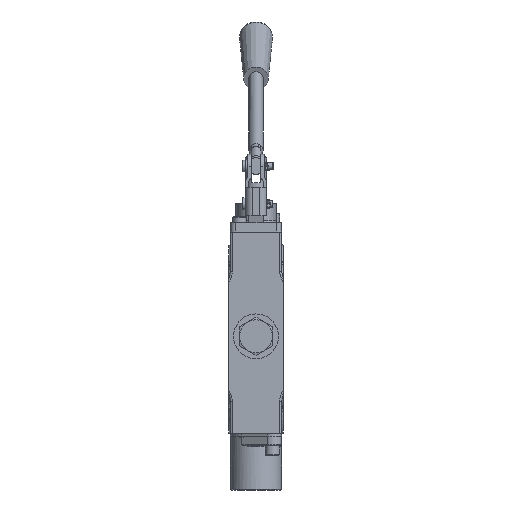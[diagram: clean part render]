
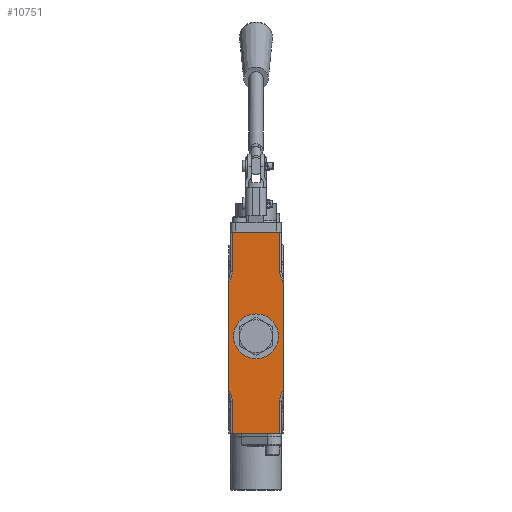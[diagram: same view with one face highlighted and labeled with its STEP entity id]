
A CAD part, front view. The second image highlights one B-rep face of the part: STEP entity #10751.
In plain terms, the highlighted planar face has unit normal (0, -1, 0).
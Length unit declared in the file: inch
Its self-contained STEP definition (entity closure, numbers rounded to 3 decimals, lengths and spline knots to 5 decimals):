
#422=PLANE($,#11676);
#675=LINE($,#16338,#1364);
#686=LINE($,#16417,#1375);
#762=LINE($,#17036,#1451);
#818=LINE($,#17465,#1507);
#820=LINE($,#17473,#1509);
#830=LINE($,#17569,#1519);
#849=LINE($,#17935,#1538);
#850=LINE($,#17942,#1539);
#1364=VECTOR($,#12827,1.251);
#1375=VECTOR($,#12874,1.251);
#1451=VECTOR($,#13200,2.86772);
#1507=VECTOR($,#13376,1.03886);
#1509=VECTOR($,#13386,0.85086);
#1519=VECTOR($,#13430,2.86772);
#1538=VECTOR($,#13561,0.85086);
#1539=VECTOR($,#13562,1.03886);
#2116=B_SPLINE_CURVE_WITH_KNOTS($,3,(#17924,#17925,#17926,#17927,#17928),
 .UNSPECIFIED.,.F.,.F.,(4,1,4),(0.,0.33727,0.78697),
 .UNSPECIFIED.);
#2117=B_SPLINE_CURVE_WITH_KNOTS($,3,(#17936,#17937,#17938,#17939,#17940),
 .UNSPECIFIED.,.F.,.F.,(4,1,4),(0.16713,0.61683,0.9541),
 .UNSPECIFIED.);
#2118=B_SPLINE_CURVE_WITH_KNOTS($,3,(#17943,#17944,#17945,#17946,#17947),
 .UNSPECIFIED.,.F.,.F.,(4,1,4),(0.16713,0.5044,0.9541),
 .UNSPECIFIED.);
#2119=B_SPLINE_CURVE_WITH_KNOTS($,3,(#17948,#17949,#17950,#17951,#17952),
 .UNSPECIFIED.,.F.,.F.,(4,1,4),(0.,0.33727,
0.78697),.UNSPECIFIED.);
#2302=FACE_BOUND($,#3556,.T.);
#2303=FACE_BOUND($,#3557,.T.);
#3556=EDGE_LOOP($,(#8275));
#3557=EDGE_LOOP($,(#8276,#8277,#8278,#8279,#8280,#8281,#8282,#8283,#8284,
#8285,#8286,#8287));
#4211=CIRCLE($,#11379,0.594);
#4836=VERTEX_POINT($,#16308);
#4846=VERTEX_POINT($,#16335);
#4847=VERTEX_POINT($,#16337);
#4866=VERTEX_POINT($,#16402);
#4873=VERTEX_POINT($,#16415);
#5007=VERTEX_POINT($,#17028);
#5008=VERTEX_POINT($,#17035);
#5131=VERTEX_POINT($,#17464);
#5133=VERTEX_POINT($,#17472);
#5155=VERTEX_POINT($,#17561);
#5156=VERTEX_POINT($,#17568);
#5202=VERTEX_POINT($,#17934);
#5203=VERTEX_POINT($,#17941);
#5917=EDGE_CURVE($,#4836,#4836,#4211,.T.);
#5927=EDGE_CURVE($,#4846,#4847,#675,.T.);
#5954=EDGE_CURVE($,#4873,#4866,#686,.T.);
#6129=EDGE_CURVE($,#5007,#5008,#762,.T.);
#6266=EDGE_CURVE($,#4866,#5131,#818,.T.);
#6270=EDGE_CURVE($,#4847,#5133,#820,.T.);
#6299=EDGE_CURVE($,#5155,#5156,#830,.T.);
#6371=EDGE_CURVE($,#5131,#5007,#2116,.T.);
#6374=EDGE_CURVE($,#5202,#4846,#849,.T.);
#6375=EDGE_CURVE($,#5008,#5202,#2117,.T.);
#6376=EDGE_CURVE($,#5203,#4873,#850,.T.);
#6377=EDGE_CURVE($,#5156,#5203,#2118,.T.);
#6378=EDGE_CURVE($,#5133,#5155,#2119,.T.);
#8275=ORIENTED_EDGE($,*,*,#5917,.T.);
#8276=ORIENTED_EDGE($,*,*,#5927,.F.);
#8277=ORIENTED_EDGE($,*,*,#6374,.F.);
#8278=ORIENTED_EDGE($,*,*,#6375,.F.);
#8279=ORIENTED_EDGE($,*,*,#6129,.F.);
#8280=ORIENTED_EDGE($,*,*,#6371,.F.);
#8281=ORIENTED_EDGE($,*,*,#6266,.F.);
#8282=ORIENTED_EDGE($,*,*,#5954,.F.);
#8283=ORIENTED_EDGE($,*,*,#6376,.F.);
#8284=ORIENTED_EDGE($,*,*,#6377,.F.);
#8285=ORIENTED_EDGE($,*,*,#6299,.F.);
#8286=ORIENTED_EDGE($,*,*,#6378,.F.);
#8287=ORIENTED_EDGE($,*,*,#6270,.F.);
#10751=ADVANCED_FACE($,(#2302,#2303),#422,.T.);
#11379=AXIS2_PLACEMENT_3D($,#16309,#12791,#12792);
#11676=AXIS2_PLACEMENT_3D($,#17933,#13559,#13560);
#12791=DIRECTION('center_axis',(0.,1.,0.));
#12792=DIRECTION('ref_axis',(1.,0.,0.));
#12827=DIRECTION($,(-1.,0.,0.));
#12874=DIRECTION($,(1.,0.,0.));
#13200=DIRECTION($,(0.,0.,-1.));
#13376=DIRECTION($,(0.,0.,-1.));
#13386=DIRECTION($,(0.,0.,1.));
#13430=DIRECTION($,(0.,0.,1.));
#13559=DIRECTION('center_axis',(0.,-1.,0.));
#13560=DIRECTION('ref_axis',(0.,0.,-1.));
#13561=DIRECTION($,(0.,0.,-1.));
#13562=DIRECTION($,(0.,0.,1.));
#16308=CARTESIAN_POINT('',(0.594,-1.656,-2.86));
#16309=CARTESIAN_POINT('Origin',(0.,-1.656,-2.86));
#16335=CARTESIAN_POINT('',(0.6255,-1.656,-5.438));
#16337=CARTESIAN_POINT('',(-0.6255,-1.656,-5.438));
#16338=CARTESIAN_POINT($,(-0.703,-1.656,-5.438));
#16402=CARTESIAN_POINT('',(0.6255,-1.656,-0.094));
#16415=CARTESIAN_POINT('',(-0.6255,-1.656,-0.094));
#16417=CARTESIAN_POINT($,(-0.703,-1.656,-0.094));
#17028=CARTESIAN_POINT('',(0.7185,-1.656,-1.42614));
#17035=CARTESIAN_POINT('',(0.7185,-1.656,-4.29386));
#17036=CARTESIAN_POINT($,(0.7185,-1.656,0.));
#17464=CARTESIAN_POINT('',(0.6255,-1.656,-1.13286));
#17465=CARTESIAN_POINT($,(0.6255,-1.656,0.));
#17472=CARTESIAN_POINT('',(-0.6255,-1.656,-4.58714));
#17473=CARTESIAN_POINT($,(-0.6255,-1.656,0.));
#17561=CARTESIAN_POINT('',(-0.7185,-1.656,-4.29386));
#17568=CARTESIAN_POINT('',(-0.7185,-1.656,-1.42614));
#17569=CARTESIAN_POINT($,(-0.7185,-1.656,0.));
#17924=CARTESIAN_POINT('Ctrl Pts',(0.6255,-1.656,-1.13286));
#17925=CARTESIAN_POINT('Ctrl Pts',(0.6255,-1.656,-1.17713));
#17926=CARTESIAN_POINT('Ctrl Pts',(0.64677,-1.656,-1.28017));
#17927=CARTESIAN_POINT('Ctrl Pts',(0.69135,-1.656,-1.37351));
#17928=CARTESIAN_POINT('Ctrl Pts',(0.7185,-1.656,-1.42614));
#17933=CARTESIAN_POINT('Origin',(-0.6875,-1.656,0.));
#17934=CARTESIAN_POINT('',(0.6255,-1.656,-4.58714));
#17935=CARTESIAN_POINT($,(0.6255,-1.656,0.));
#17936=CARTESIAN_POINT('Ctrl Pts',(0.7185,-1.656,-4.29386));
#17937=CARTESIAN_POINT('Ctrl Pts',(0.69135,-1.656,-4.34649));
#17938=CARTESIAN_POINT('Ctrl Pts',(0.64677,-1.656,-4.43983));
#17939=CARTESIAN_POINT('Ctrl Pts',(0.6255,-1.656,-4.54287));
#17940=CARTESIAN_POINT('Ctrl Pts',(0.6255,-1.656,-4.58714));
#17941=CARTESIAN_POINT('',(-0.6255,-1.656,-1.13286));
#17942=CARTESIAN_POINT($,(-0.6255,-1.656,0.));
#17943=CARTESIAN_POINT('Ctrl Pts',(-0.7185,-1.656,-1.42614));
#17944=CARTESIAN_POINT('Ctrl Pts',(-0.69814,-1.656,-1.38667));
#17945=CARTESIAN_POINT('Ctrl Pts',(-0.65323,-1.656,-1.294));
#17946=CARTESIAN_POINT('Ctrl Pts',(-0.6255,-1.656,-1.19188));
#17947=CARTESIAN_POINT('Ctrl Pts',(-0.6255,-1.656,-1.13286));
#17948=CARTESIAN_POINT('Ctrl Pts',(-0.6255,-1.656,-4.58714));
#17949=CARTESIAN_POINT('Ctrl Pts',(-0.6255,-1.656,-4.54287));
#17950=CARTESIAN_POINT('Ctrl Pts',(-0.64677,-1.656,-4.43983));
#17951=CARTESIAN_POINT('Ctrl Pts',(-0.69135,-1.656,-4.34649));
#17952=CARTESIAN_POINT('Ctrl Pts',(-0.7185,-1.656,-4.29386));
